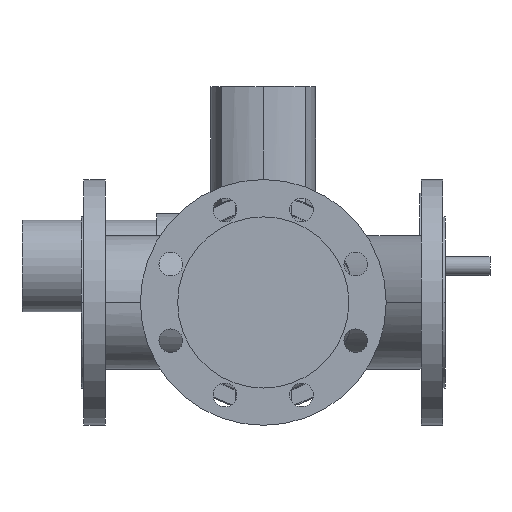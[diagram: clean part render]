
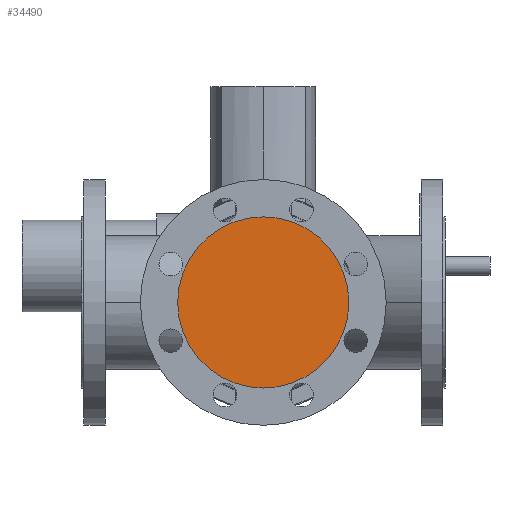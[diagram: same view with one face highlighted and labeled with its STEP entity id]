
A CAD part, front view. The second image highlights one B-rep face of the part: STEP entity #34490.
In plain terms, the highlighted planar face has unit normal (0, -1, 0).
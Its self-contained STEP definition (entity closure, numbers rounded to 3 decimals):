
#5170=CARTESIAN_POINT('',(106.,-200.,0.));
#5180=VERTEX_POINT('',#5170);
#5340=CARTESIAN_POINT('',(294.,-200.,0.));
#5350=VERTEX_POINT('',#5340);
#5380=CARTESIAN_POINT('',(200.,-200.,0.));
#5390=DIRECTION('',(0.,1.,0.));
#5400=DIRECTION('',(1.,0.,0.));
#5410=AXIS2_PLACEMENT_3D('',#5380,#5390,#5400);
#5420=CIRCLE('',#5410,94.);
#5430=EDGE_CURVE('',#5180,#5350,#5420,.T.);
#34390=CARTESIAN_POINT('',(247.,-200.,0.));
#34400=DIRECTION('',(0.,-1.,0.));
#34410=DIRECTION('',(-1.,0.,0.));
#34420=AXIS2_PLACEMENT_3D('',#34390,#34400,#34410);
#34430=PLANE('',#34420);
#34440=EDGE_CURVE('',#5350,#5180,#5420,.T.);
#34450=ORIENTED_EDGE('',*,*,#34440,.F.);
#34460=ORIENTED_EDGE('',*,*,#5430,.F.);
#34470=EDGE_LOOP('',(#34460,#34450));
#34480=FACE_OUTER_BOUND('',#34470,.T.);
#34490=ADVANCED_FACE('',(#34480),#34430,.T.);
